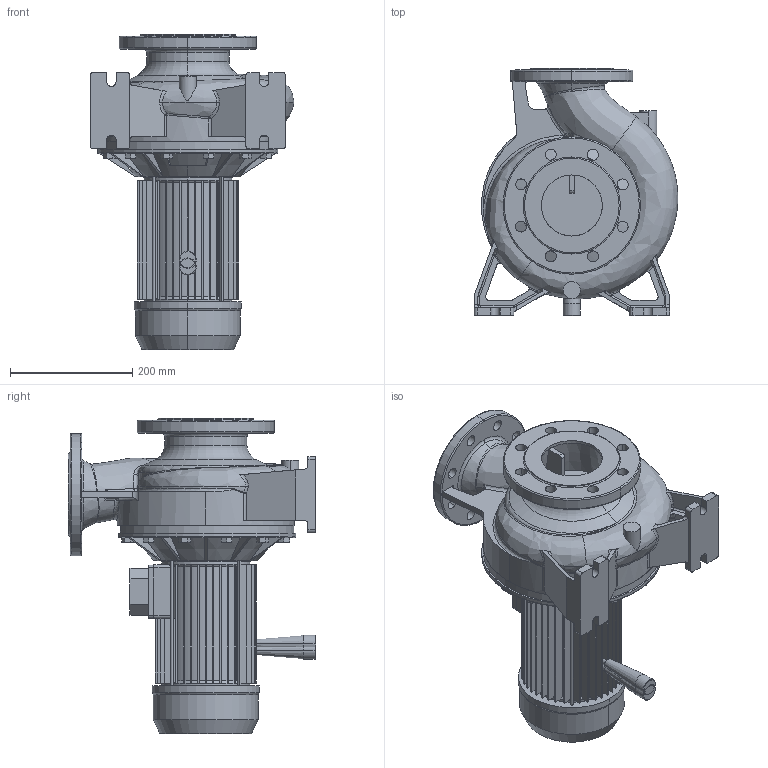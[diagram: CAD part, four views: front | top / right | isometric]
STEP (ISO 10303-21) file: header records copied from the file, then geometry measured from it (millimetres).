
FILE_DESCRIPTION((''),'2;1');
FILE_NAME('3M4_80-160_1_5_IE2_ASM','2018-06-04T',('rosa'),('"Ebara Pumps Europe +39.444.706811"'),'PRO/ENGINEER BY PARAMETRIC TECHNOLOGY CORPORATION, 2012130','PRO/ENGINEER BY PARAMETRIC TECHNOLOGY CORPORATION, 2012130','');
FILE_SCHEMA(('AUTOMOTIVE_DESIGN { 1 0 10303 214 1 1 1 1 }'));
Length unit declared in the file: millimetre
Products named in the file (5): CORPO_POMPA_80-160; SUPPORTO_3M_230_90; MEC_90X160_IE2; 72180; 3M4_80-160_1_5_IE2_ASM
Assembly tree (5 placements, depth 2):
  3M4_80-160_1_5_IE2_ASM
    CORPO_POMPA_80-160
    SUPPORTO_3M_230_90
    MEC_90X160_IE2
    72180  x2
Bounding box: 333.67 x 405 x 516 mm (x, y, z)
Volume: 14341941.1 mm3; surface area: 1242094.1 mm2
Topology: 5 solids, 5 shells, 861 faces, 2171 edges, 1352 vertices
Faces by surface type: plane 451, cylinder 200, cone 90, bspline 82, torus 28, sphere 10
Entity records: 38728 total; most frequent: CARTESIAN_POINT 11498, ORIENTED_EDGE 4312, DIRECTION 3974, EDGE_CURVE 2156, PRESENTATION_STYLE_ASSIGNMENT 2145, STYLED_ITEM 2145, CURVE_STYLE 2142, AXIS2_PLACEMENT_3D 1424
